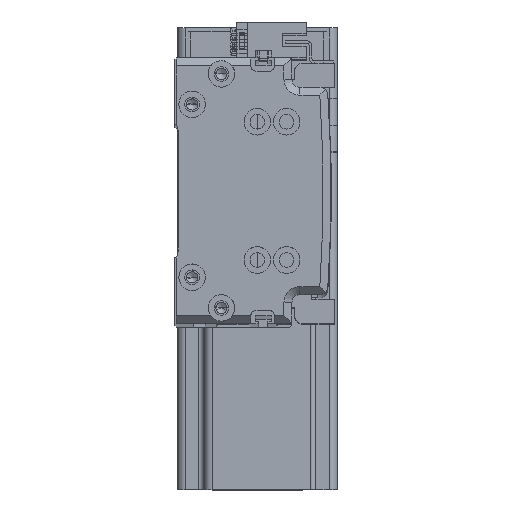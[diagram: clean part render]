
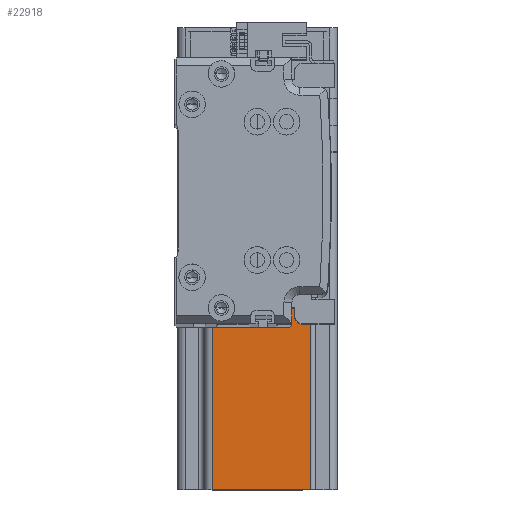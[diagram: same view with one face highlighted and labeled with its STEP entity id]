
A CAD part, top view. The second image highlights one B-rep face of the part: STEP entity #22918.
In plain terms, the highlighted planar face has unit normal (0, 0, 1) as drawn and (-1, 0, 0) by its records, which use the part's own axes.
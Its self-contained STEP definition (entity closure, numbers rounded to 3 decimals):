
#199 = DIRECTION ( 'NONE',  ( 0., 0., 1. ) ) ;
#1524 = CARTESIAN_POINT ( 'NONE',  ( -30., 27., 137. ) ) ;
#1899 = DIRECTION ( 'NONE',  ( 0., 0., 1. ) ) ;
#2172 = EDGE_CURVE ( 'NONE', #4796, #25492, #42093, .T. ) ;
#2815 = CARTESIAN_POINT ( 'NONE',  ( -30., 27., 0. ) ) ;
#3344 = FACE_OUTER_BOUND ( 'NONE', #46931, .T. ) ;
#4796 = VERTEX_POINT ( 'NONE', #15521 ) ;
#5475 = VECTOR ( 'NONE', #35507, 1000. ) ;
#6865 = CARTESIAN_POINT ( 'NONE',  ( -30., -17., 137. ) ) ;
#7946 = VECTOR ( 'NONE', #39600, 1000. ) ;
#11171 = CARTESIAN_POINT ( 'NONE',  ( -30., -30., 137. ) ) ;
#11238 = CARTESIAN_POINT ( 'NONE',  ( -30., 20., 10. ) ) ;
#11792 = CARTESIAN_POINT ( 'NONE',  ( -30., -30., 0. ) ) ;
#12091 = VERTEX_POINT ( 'NONE', #17768 ) ;
#13021 = DIRECTION ( 'NONE',  ( 0., 0., -1. ) ) ;
#15169 = DIRECTION ( 'NONE',  ( 0., 0., 1. ) ) ;
#15467 = LINE ( 'NONE', #11171, #5475 ) ;
#15521 = CARTESIAN_POINT ( 'NONE',  ( -30., -27., 0. ) ) ;
#17768 = CARTESIAN_POINT ( 'NONE',  ( -30., -17., 10. ) ) ;
#19532 = VECTOR ( 'NONE', #1899, 1000. ) ;
#21365 = AXIS2_PLACEMENT_3D ( 'NONE', #22089, #48518, #25880 ) ;
#21797 = ORIENTED_EDGE ( 'NONE', *, *, #43182, .F. ) ;
#22089 = CARTESIAN_POINT ( 'NONE',  ( -30., -30., 137. ) ) ;
#22189 = EDGE_CURVE ( 'NONE', #41066, #35760, #38897, .T. ) ;
#22664 = CARTESIAN_POINT ( 'NONE',  ( -30., 20., 10. ) ) ;
#22674 = CARTESIAN_POINT ( 'NONE',  ( -30., 27., 10. ) ) ;
#22918 = ADVANCED_FACE ( 'NONE', ( #3344 ), #33324, .F. ) ;
#24078 = VECTOR ( 'NONE', #199, 1000. ) ;
#24091 = EDGE_CURVE ( 'NONE', #27826, #24321, #15467, .T. ) ;
#24321 = VERTEX_POINT ( 'NONE', #6865 ) ;
#24369 = CARTESIAN_POINT ( 'NONE',  ( -30., -17., 137. ) ) ;
#24476 = EDGE_CURVE ( 'NONE', #35760, #4796, #26509, .T. ) ;
#25492 = VERTEX_POINT ( 'NONE', #26623 ) ;
#25880 = DIRECTION ( 'NONE',  ( 0., 0., -1. ) ) ;
#26045 = ORIENTED_EDGE ( 'NONE', *, *, #22189, .T. ) ;
#26095 = LINE ( 'NONE', #26901, #34982 ) ;
#26509 = LINE ( 'NONE', #11792, #35377 ) ;
#26623 = CARTESIAN_POINT ( 'NONE',  ( -30., -27., 10. ) ) ;
#26901 = CARTESIAN_POINT ( 'NONE',  ( -30., 30., 10. ) ) ;
#27188 = EDGE_CURVE ( 'NONE', #42316, #41066, #26095, .T. ) ;
#27568 = ORIENTED_EDGE ( 'NONE', *, *, #32221, .F. ) ;
#27826 = VERTEX_POINT ( 'NONE', #42066 ) ;
#28306 = ORIENTED_EDGE ( 'NONE', *, *, #40671, .T. ) ;
#30836 = VECTOR ( 'NONE', #15169, 1000. ) ;
#31179 = ORIENTED_EDGE ( 'NONE', *, *, #24476, .T. ) ;
#31668 = CARTESIAN_POINT ( 'NONE',  ( -30., -30., 10. ) ) ;
#32221 = EDGE_CURVE ( 'NONE', #42316, #27826, #44134, .T. ) ;
#33324 = PLANE ( 'NONE',  #21365 ) ;
#34694 = DIRECTION ( 'NONE',  ( 0., 1., 0. ) ) ;
#34982 = VECTOR ( 'NONE', #34694, 1000. ) ;
#35377 = VECTOR ( 'NONE', #41938, 1000. ) ;
#35507 = DIRECTION ( 'NONE',  ( 0., -1., 0. ) ) ;
#35760 = VERTEX_POINT ( 'NONE', #2815 ) ;
#37292 = ORIENTED_EDGE ( 'NONE', *, *, #27188, .T. ) ;
#37681 = CARTESIAN_POINT ( 'NONE',  ( -30., -27., 137. ) ) ;
#38897 = LINE ( 'NONE', #1524, #47749 ) ;
#39558 = LINE ( 'NONE', #24369, #19532 ) ;
#39600 = DIRECTION ( 'NONE',  ( 0., -1., 0. ) ) ;
#40671 = EDGE_CURVE ( 'NONE', #12091, #24321, #39558, .T. ) ;
#41066 = VERTEX_POINT ( 'NONE', #22674 ) ;
#41189 = ORIENTED_EDGE ( 'NONE', *, *, #2172, .T. ) ;
#41938 = DIRECTION ( 'NONE',  ( 0., -1., 0. ) ) ;
#42066 = CARTESIAN_POINT ( 'NONE',  ( -30., 20., 137. ) ) ;
#42093 = LINE ( 'NONE', #37681, #30836 ) ;
#42316 = VERTEX_POINT ( 'NONE', #11238 ) ;
#43182 = EDGE_CURVE ( 'NONE', #12091, #25492, #47959, .T. ) ;
#44134 = LINE ( 'NONE', #22664, #24078 ) ;
#46931 = EDGE_LOOP ( 'NONE', ( #21797, #28306, #48198, #27568, #37292, #26045, #31179, #41189 ) ) ;
#47749 = VECTOR ( 'NONE', #13021, 1000. ) ;
#47959 = LINE ( 'NONE', #31668, #7946 ) ;
#48198 = ORIENTED_EDGE ( 'NONE', *, *, #24091, .F. ) ;
#48518 = DIRECTION ( 'NONE',  ( 1., 0., 0. ) ) ;
